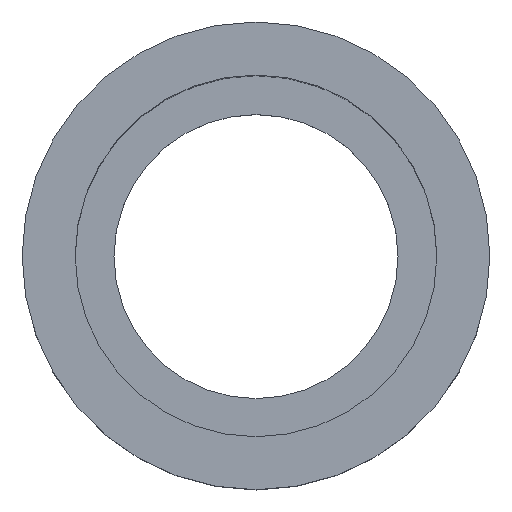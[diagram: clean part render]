
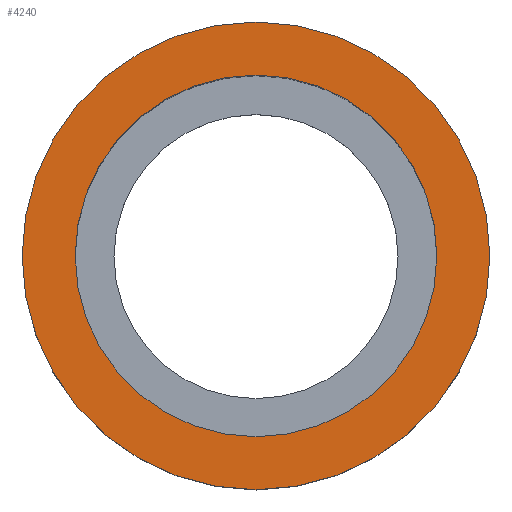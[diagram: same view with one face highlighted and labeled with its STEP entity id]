
A CAD part, top view. The second image highlights one B-rep face of the part: STEP entity #4240.
In plain terms, the highlighted planar face has unit normal (0, 0, 1) as drawn and (0, -1, 0) by its records, which use the part's own axes.
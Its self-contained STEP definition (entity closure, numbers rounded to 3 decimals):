
#3760=CARTESIAN_POINT('',(19.2,-57.627,-28.));
#3770=VERTEX_POINT('',#3760);
#3850=CARTESIAN_POINT('',(19.2,-57.627,28.));
#3860=VERTEX_POINT('',#3850);
#3890=CARTESIAN_POINT('',(19.2,-57.627,0.))
;
#3900=DIRECTION('',(0.,1.,0.));
#3910=DIRECTION('',(0.,0.,1.));
#3920=AXIS2_PLACEMENT_3D('',#3890,#3900,#3910);
#3930=CIRCLE('',#3920,28.);
#3940=EDGE_CURVE('',#3770,#3860,#3930,.T.);
#3990=CARTESIAN_POINT('',(19.2,-57.627,-26.575));
#4000=DIRECTION('',(0.,1.,0.));
#4010=DIRECTION('',(0.,0.,1.));
#4020=AXIS2_PLACEMENT_3D('',#3990,#4000,#4010);
#4030=PLANE('',#4020);
#4040=CARTESIAN_POINT('',(19.2,-57.627,0.));
#4050=DIRECTION('',(0.,-1.,0.));
#4060=DIRECTION('',(0.,0.,1.));
#4070=AXIS2_PLACEMENT_3D('',#4040,#4050,#4060);
#4080=CIRCLE('',#4070,21.65);
#4090=CARTESIAN_POINT('',(19.2,-57.627,21.65));
#4100=VERTEX_POINT('',#4090);
#4110=CARTESIAN_POINT('',(19.2,-57.627,-21.65));
#4120=VERTEX_POINT('',#4110);
#4130=EDGE_CURVE('',#4100,#4120,#4080,.T.);
#4140=ORIENTED_EDGE('',*,*,#4130,.F.);
#4150=EDGE_CURVE('',#4120,#4100,#4080,.T.);
#4160=ORIENTED_EDGE('',*,*,#4150,.F.);
#4170=EDGE_LOOP('',(#4160,#4140));
#4180=FACE_BOUND('',#4170,.T.);
#4190=EDGE_CURVE('',#3860,#3770,#3930,.T.);
#4200=ORIENTED_EDGE('',*,*,#4190,.F.);
#4210=ORIENTED_EDGE('',*,*,#3940,.F.);
#4220=EDGE_LOOP('',(#4210,#4200));
#4230=FACE_OUTER_BOUND('',#4220,.T.);
#4240=ADVANCED_FACE('',(#4180,#4230),#4030,.F.);
